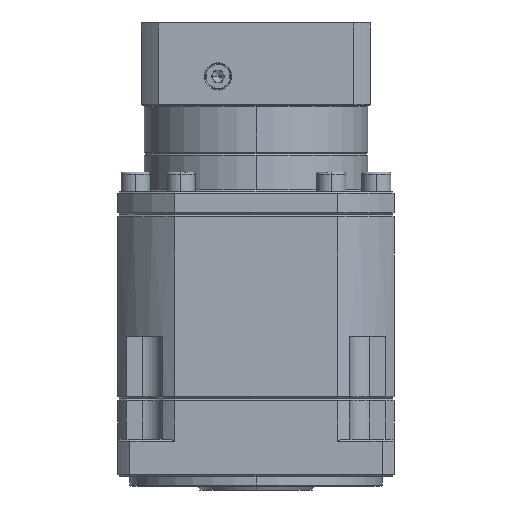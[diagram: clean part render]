
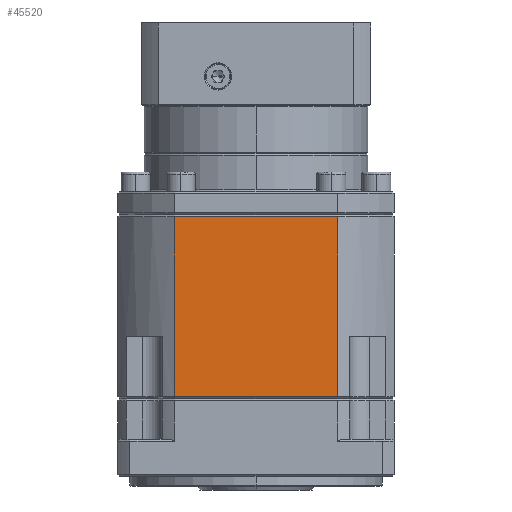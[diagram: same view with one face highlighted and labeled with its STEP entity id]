
A CAD part, left-side view. The second image highlights one B-rep face of the part: STEP entity #45520.
In plain terms, the highlighted planar face has unit normal (-1, 0, 0).
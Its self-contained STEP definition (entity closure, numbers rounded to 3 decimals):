
#1678 = CARTESIAN_POINT ( 'NONE',  ( -186.127, 15.479, -78.565 ) ) ;
#5163 = VERTEX_POINT ( 'NONE', #74861 ) ;
#6160 = VERTEX_POINT ( 'NONE', #39086 ) ;
#14665 = PLANE ( 'NONE',  #29464 ) ;
#15414 = VERTEX_POINT ( 'NONE', #57677 ) ;
#22545 = VECTOR ( 'NONE', #106538, 1000. ) ;
#24112 = CARTESIAN_POINT ( 'NONE',  ( -186.127, -13.506, -78.565 ) ) ;
#26378 = LINE ( 'NONE', #49366, #30739 ) ;
#29464 = AXIS2_PLACEMENT_3D ( 'NONE', #24112, #32375, #51000 ) ;
#30739 = VECTOR ( 'NONE', #97643, 1000. ) ;
#32317 = CARTESIAN_POINT ( 'NONE',  ( -186.127, 99.509, -172.065 ) ) ;
#32375 = DIRECTION ( 'NONE',  ( 1., 0., 0. ) ) ;
#39086 = CARTESIAN_POINT ( 'NONE',  ( -186.127, 15.479, -172.065 ) ) ;
#42464 = EDGE_LOOP ( 'NONE', ( #114229, #92286, #59087, #66751 ) ) ;
#45520 = ADVANCED_FACE ( 'NONE', ( #99235 ), #14665, .F. ) ;
#49366 = CARTESIAN_POINT ( 'NONE',  ( -186.127, 99.509, -78.565 ) ) ;
#50424 = DIRECTION ( 'NONE',  ( 0., 1., 0. ) ) ;
#50987 = EDGE_CURVE ( 'NONE', #5163, #6160, #103892, .T. ) ;
#51000 = DIRECTION ( 'NONE',  ( 0., 0., -1. ) ) ;
#51956 = CARTESIAN_POINT ( 'NONE',  ( -186.127, 57.494, -79.565 ) ) ;
#57677 = CARTESIAN_POINT ( 'NONE',  ( -186.127, 99.509, -79.565 ) ) ;
#59087 = ORIENTED_EDGE ( 'NONE', *, *, #50987, .F. ) ;
#63535 = VECTOR ( 'NONE', #50424, 1000. ) ;
#65044 = EDGE_CURVE ( 'NONE', #15414, #5163, #107525, .T. ) ;
#66751 = ORIENTED_EDGE ( 'NONE', *, *, #65044, .F. ) ;
#67367 = VERTEX_POINT ( 'NONE', #32317 ) ;
#74861 = CARTESIAN_POINT ( 'NONE',  ( -186.127, 15.479, -79.565 ) ) ;
#82398 = VECTOR ( 'NONE', #108916, 1000. ) ;
#82624 = LINE ( 'NONE', #116833, #63535 ) ;
#88701 = EDGE_CURVE ( 'NONE', #6160, #67367, #82624, .T. ) ;
#92286 = ORIENTED_EDGE ( 'NONE', *, *, #88701, .F. ) ;
#97643 = DIRECTION ( 'NONE',  ( 0., 0., 1. ) ) ;
#99235 = FACE_OUTER_BOUND ( 'NONE', #42464, .T. ) ;
#103892 = LINE ( 'NONE', #1678, #22545 ) ;
#106538 = DIRECTION ( 'NONE',  ( 0., 0., -1. ) ) ;
#107525 = LINE ( 'NONE', #51956, #82398 ) ;
#108916 = DIRECTION ( 'NONE',  ( 0., -1., 0. ) ) ;
#113153 = EDGE_CURVE ( 'NONE', #67367, #15414, #26378, .T. ) ;
#114229 = ORIENTED_EDGE ( 'NONE', *, *, #113153, .F. ) ;
#116833 = CARTESIAN_POINT ( 'NONE',  ( -186.127, -13.506, -172.065 ) ) ;
